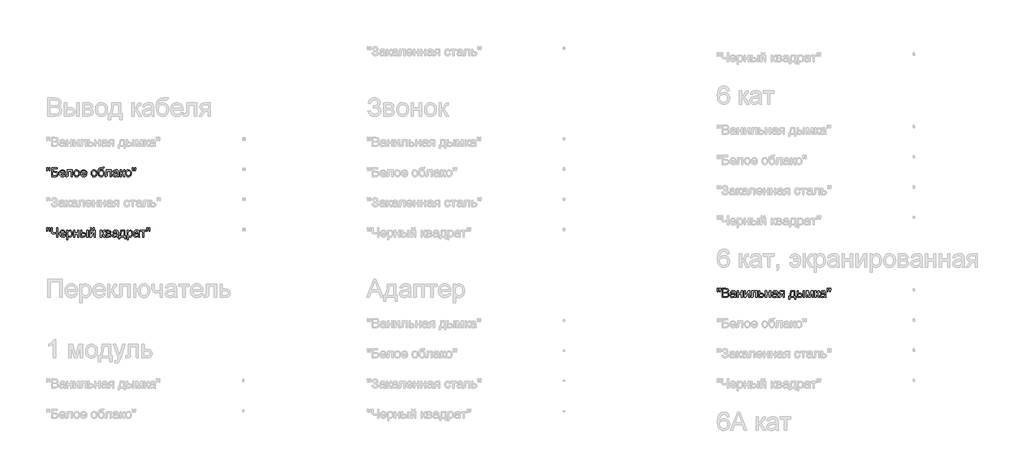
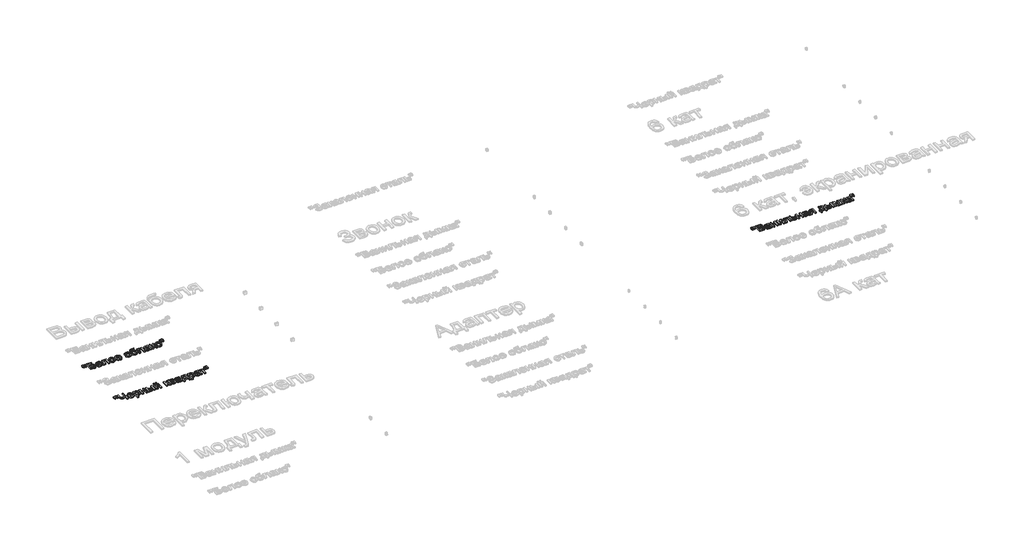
# One storey, part 63 of 168: 3 proxies.
"""IFC4 building model written with IfcOpenShell, lengths in millimetres."""

import ifcopenshell
import ifcopenshell.guid

model = None  # the IFC model being written
_history = None  # IfcOwnerHistory: only IFC2X3 demands one
_inside = {}  # id of a spatial element -> (the spatial element, [elements in it])
_under = {}  # id of a project, library or spatial element -> (it, [spatial elements below it])
_declared = {}  # id of a project -> (the project, [libraries it declares])
_typed = {}  # id of a type object -> (the type object, [elements of that type])
_made_of = {}  # id of a material, layer set ... -> (it, [elements and type objects made of it])


def new_model(schema):
    """Start an empty IFC model of exactly this schema.

    Asked for "IFC4X3", IfcOpenShell would pick the latest addendum, in which some entities
    have other attributes; the version numbers below select the first issue.
    IFC2X3 requires an IfcOwnerHistory on every rooted entity: one is made here for all.
    """
    global model, _history
    if schema == "IFC4X3":
        model = ifcopenshell.file(schema_version=(4, 3, 0, 0))
    else:
        model = ifcopenshell.file(schema=schema)
    _inside.clear()
    _under.clear()
    _declared.clear()
    _typed.clear()
    _made_of.clear()
    _history = None
    if model.schema == "IFC2X3":
        org = make("IfcOrganization", Name="unknown")
        user = make(
            "IfcPersonAndOrganization",
            ThePerson=make("IfcPerson", FamilyName="unknown"),
            TheOrganization=org,
        )
        app = make(
            "IfcApplication",
            ApplicationDeveloper=org,
            Version="unknown",
            ApplicationFullName="unknown",
            ApplicationIdentifier="unknown",
        )
        _history = make(
            "IfcOwnerHistory",
            OwningUser=user,
            OwningApplication=app,
            ChangeAction="ADDED",
            CreationDate=0,
        )
    return model


def make(cls, **values):
    """One entity of the class cls with the attributes given. An attribute that is None is left unset."""
    return model.create_entity(
        cls, **{name: value for name, value in values.items() if value is not None}
    )


def rooted(cls, **values):
    """An entity with a GlobalId (a new one), such as an element, a storey or a relation."""
    return make(cls, GlobalId=ifcopenshell.guid.new(), OwnerHistory=_history, **values)


def si_unit(unit_type, name, prefix=None):
    """IfcSIUnit, for example si_unit("LENGTHUNIT", "METRE", prefix="MILLI")."""
    return make("IfcSIUnit", UnitType=unit_type, Prefix=prefix, Name=name)


def assignment(units):
    """IfcUnitAssignment: the units of a project."""
    return None if units is None else make("IfcUnitAssignment", Units=units)


def point(xyz):
    """IfcCartesianPoint."""
    return None if xyz is None else make("IfcCartesianPoint", Coordinates=xyz)


def direction(xyz):
    """IfcDirection."""
    return None if xyz is None else make("IfcDirection", DirectionRatios=xyz)


def frame(location, z_axis=None, x_axis=None):
    """IfcAxis2Placement3D, a coordinate frame: its origin and axes. An axis left out is left unset."""
    return make(
        "IfcAxis2Placement3D",
        Location=point(location),
        Axis=direction(z_axis),
        RefDirection=direction(x_axis),
    )


def origin():
    """The frame at (0, 0, 0) with its axes left unset."""
    return frame((0.0, 0.0, 0.0))


def origin_with_axes():
    """The frame at (0, 0, 0) with the z axis (0, 0, 1) and the x axis (1, 0, 0) written out."""
    return frame((0.0, 0.0, 0.0), z_axis=(0.0, 0.0, 1.0), x_axis=(1.0, 0.0, 0.0))


def place(relative_to, where):
    """IfcLocalPlacement: puts the frame where relative to a parent placement (None: the world)."""
    return make(
        "IfcLocalPlacement", PlacementRelTo=relative_to, RelativePlacement=where
    )


def context(
    kind, dimensions, precision=None, world=None, true_north=None, identifier=None
):
    """IfcGeometricRepresentationContext, for example the 3D "Model" context."""
    return make(
        "IfcGeometricRepresentationContext",
        ContextIdentifier=identifier,
        ContextType=kind,
        CoordinateSpaceDimension=dimensions,
        Precision=precision,
        WorldCoordinateSystem=world,
        TrueNorth=true_north,
    )


def project(units=None, contexts=None):
    """IfcProject with its units and contexts."""
    return rooted(
        "IfcProject",
        Name="project",
        RepresentationContexts=contexts,
        UnitsInContext=assignment(units),
    )


def spatial(cls, under=None, at=None, **own):
    """A site, building, storey or space (cls), placed at a placement, below another one or the project."""
    s = rooted(cls, ObjectPlacement=at, **own)
    if under is not None:
        _under.setdefault(under.id(), (under, []))[1].append(s)
    return s


def polyline(points):
    """IfcPolyline through the points."""
    return make("IfcPolyline", Points=[point(p) for p in points])


def outline(outer, holes=None, kind="AREA"):
    """IfcArbitraryClosedProfileDef: a profile drawn as a closed curve; with holes, ...WithVoids."""
    if holes is None:
        return make("IfcArbitraryClosedProfileDef", ProfileType=kind, OuterCurve=outer)
    return make(
        "IfcArbitraryProfileDefWithVoids",
        ProfileType=kind,
        OuterCurve=outer,
        InnerCurves=holes,
    )


def extrude(swept, where, along, depth):
    """IfcExtrudedAreaSolid: the profile swept, set in the frame where, extruded along a direction by depth."""
    return make(
        "IfcExtrudedAreaSolid",
        SweptArea=swept,
        Position=where,
        ExtrudedDirection=direction(along),
        Depth=depth,
    )


def shape(context_of_items, identifier, shape_type, items):
    """IfcShapeRepresentation: the items that make up one representation, for example the "Body"."""
    return make(
        "IfcShapeRepresentation",
        ContextOfItems=context_of_items,
        RepresentationIdentifier=identifier,
        RepresentationType=shape_type,
        Items=items,
    )


def made_of(thing, what):
    """Note that an element or type object is made of a material, layer set ...; save() writes the relation."""
    if what is not None:
        _made_of.setdefault(what.id(), (what, []))[1].append(thing)
    return thing


def element(
    cls,
    number,
    at=None,
    inside=None,
    cuts=None,
    type_object=None,
    material=None,
    context=None,
    identifier="Body",
    shape_type=None,
    held_by="IfcProductDefinitionShape",
    body=None,
    shapes=None,
    **own,
):
    """One element of the class cls, such as IfcWall. Its Tag is "e" and its number.

    at: its placement. inside: the storey or other place that contains it. cuts: it is an
    opening in that element (IfcRelVoidsElement). A single representation is given by context,
    identifier, shape_type and body (its items); several are given by shapes. held_by: the class
    of the entity that holds the representations. save() writes the other relations.
    """
    e = rooted(cls, Tag="e%d" % number, ObjectPlacement=at, **own)
    if body is not None:
        shapes = [shape(context, identifier, shape_type, body)]
    if shapes is not None:
        e.Representation = make(held_by, Representations=shapes)
    if inside is not None:
        _inside.setdefault(inside.id(), (inside, []))[1].append(e)
    if cuts is not None:
        rooted(
            "IfcRelVoidsElement", RelatingBuildingElement=cuts, RelatedOpeningElement=e
        )
    if type_object is not None:
        _typed.setdefault(type_object.id(), (type_object, []))[1].append(e)
    return made_of(e, material)


def aggregate(whole, parts):
    """IfcRelAggregates: a whole, such as a stair, and the parts it consists of."""
    return rooted("IfcRelAggregates", RelatingObject=whole, RelatedObjects=parts)


def save(model, path):
    """Write the relations noted so far, then the file.

    IfcRelAggregates (storeys below a building ...), IfcRelContainedInSpatialStructure (elements
    in a storey), IfcRelDefinesByType, IfcRelAssociatesMaterial and IfcRelDeclares: one each for
    every whole, place, type object, material and project.
    """
    for whole, parts in _under.values():
        aggregate(whole, parts)
    for where, things in _inside.values():
        rooted(
            "IfcRelContainedInSpatialStructure",
            RelatedElements=things,
            RelatingStructure=where,
        )
    for kind, things in _typed.values():
        rooted("IfcRelDefinesByType", RelatedObjects=things, RelatingType=kind)
    for what, things in _made_of.values():
        rooted("IfcRelAssociatesMaterial", RelatedObjects=things, RelatingMaterial=what)
    for by, libraries in _declared.values():
        rooted("IfcRelDeclares", RelatingContext=by, RelatedDefinitions=libraries)
    model.write(path)


model = new_model("IFC4")

# Units and contexts
model_context = context("Model", 3, world=origin())
ifc_project = project(units=[si_unit("LENGTHUNIT", "METRE", prefix="MILLI")], contexts=[model_context])

# Site, building, storey
site = spatial("IfcSite", under=ifc_project)
building = spatial("IfcBuilding", under=site)
storey = spatial("IfcBuildingStorey", under=building, Name="Этаж 01", Elevation=0.0)

# Proxies
placement = place(None, origin())
element("IfcBuildingElementProxy", 1, Name="150", ObjectType="150", at=placement, inside=storey, context=model_context, shape_type="SweptSolid", body=[
    extrude(outline(polyline([(49080.1485789, -38470.3300622), (49075.550054, -38441.2305964), (49075.550054, -38416.1778325), (49094.3856121, -38416.1778325), (49094.3856121, -38441.2305964), (49090.2653338, -38470.3300622), (49080.1485789, -38470.3300622)])), origin_with_axes(), (0.0, 0.0, 1.0), 20.0),
    extrude(outline(polyline([(49117.7093306, -38470.3300622), (49113.2211703, -38441.2305964), (49113.2211703, -38416.1778325), (49132.0567284, -38416.1778325), (49132.0567284, -38441.2305964), (49127.6421445, -38470.3300622), (49117.7093306, -38470.3300622)])), origin_with_axes(), (0.0, 0.0, 1.0), 20.0),
    extrude(outline(polyline([(49157.9556209, -38416.1778325), (49252.1334117, -38416.1778325), (49252.1334117, -38435.0133907), (49176.791179, -38435.0133907), (49176.791179, -38479.7478413), (49212.0710624, -38479.7478413), (49243.157091, -38483.573814), (49253.5589544, -38489.101241), (49261.6615553, -38498.0315764), (49266.8762826, -38509.5278888), (49268.614525, -38522.7532465), (49263.6665122, -38544.2191609), (49248.8960501, -38560.5347274), (49235.6247071, -38565.2804052), (49215.4555767, -38566.8622977), (49157.9556209, -38566.8622977), (49157.9556209, -38416.1778325)]), holes=[polyline([(49176.791179, -38548.0267396), (49217.1478339, -38548.0267396), (49231.4124583, -38546.4724382), (49241.6119866, -38541.8095339), (49247.7372218, -38534.0380267), (49249.7789669, -38523.1579167), (49245.1068655, -38508.4058487), (49232.102237, -38500.533174), (49203.7201411, -38498.5833994), (49176.791179, -38498.5833994), (49176.791179, -38548.0267396)])]), origin_with_axes(), (0.0, 0.0, 1.0), 20.0),
    extrude(outline(polyline([(49369.6349209, -38533.900071), (49388.1025971, -38536.2545157), (49381.4485315, -38550.1696522), (49370.8305374, -38560.5715156), (49356.4877381, -38567.0554358), (49338.6592569, -38569.2167425), (49316.5587461, -38565.4873388), (49299.5534008, -38554.2991276), (49288.710079, -38536.3786759), (49285.0956384, -38512.4525506), (49288.7468672, -38487.7216835), (49299.7005536, -38469.2264162), (49316.4759726, -38457.6933157), (49337.5923991, -38453.8489488), (49358.0512366, -38457.6841186), (49374.3989927, -38469.189628), (49385.1181544, -38487.6481071), (49388.6912083, -38512.342186), (49388.5808437, -38517.4189576), (49303.9311966, -38517.4189576), (49307.1915508, -38531.518035), (49314.7653213, -38541.8831103), (49325.6960151, -38548.2566658), (49339.0271389, -38550.3811843), (49357.4948151, -38546.444847), (49369.6349209, -38533.900071)]), holes=[polyline([(49303.9311966, -38498.5833994), (49369.8556501, -38498.5833994), (49367.3080673, -38488.6321915), (49362.3140692, -38481.5136749), (49351.3327917, -38474.8917989), (49337.5188227, -38472.684507), (49324.8222954, -38474.445742), (49314.3238629, -38479.7294472), (49307.0260039, -38487.9654053), (49303.9311966, -38498.5833994)])]), origin_with_axes(), (0.0, 0.0, 1.0), 20.0),
    extrude(outline(polyline([(49416.9445455, -38456.2033936), (49501.7045572, -38456.2033936), (49501.7045572, -38566.7519331), (49482.868999, -38566.7519331), (49482.868999, -38475.0389517), (49435.7801036, -38475.0389517), (49435.7801036, -38527.830018), (49434.5109108, -38552.1838061), (49427.539547, -38562.4661079), (49411.0584336, -38566.8622977), (49395.7545426, -38565.9058045), (49395.7545426, -38548.0267396), (49404.1790403, -38548.0267396), (49412.6955084, -38546.8679113), (49416.0984169, -38543.1890913), (49416.9445455, -38526.7631603), (49416.9445455, -38456.2033936)])), origin_with_axes(), (0.0, 0.0, 1.0), 20.0),
    extrude(outline(polyline([(49525.2490049, -38511.5328457), (49529.323298, -38484.852204), (49541.5461773, -38466.0994193), (49556.6477332, -38456.9115664), (49574.7291332, -38453.8489488), (49594.516586, -38457.5783525), (49610.3217163, -38468.7665637), (49620.6821929, -38486.5306656), (49624.1356852, -38509.9877413), (49622.6089749, -38529.0164375), (49618.0288441, -38543.501791), (49610.5286499, -38554.3497114), (49600.2417496, -38562.4661079), (49588.0234688, -38567.5290839), (49574.7291332, -38569.2167425), (49554.7025571, -38565.5011344), (49538.915821, -38554.3543099), (49528.6657089, -38536.2177275), (49525.2490049, -38511.5328457)]), holes=[polyline([(49544.084563, -38511.4960575), (49546.2642638, -38528.5427894), (49552.8033663, -38540.6874938), (49562.6442097, -38547.9577617), (49574.7291332, -38550.3811843), (49586.7588745, -38547.9439661), (49596.5813237, -38540.6323115), (49603.1204262, -38528.3266587), (49605.300127, -38510.9074463), (49603.1066306, -38494.357355), (49596.5261414, -38482.3781975), (49586.6898966, -38475.1079296), (49574.7291332, -38472.684507), (49562.6442097, -38475.0987326), (49552.8033663, -38482.3414093), (49546.2642638, -38494.4585226), (49544.084563, -38511.4960575)])]), origin_with_axes(), (0.0, 0.0, 1.0), 20.0),
    extrude(outline(polyline([(49722.8016363, -38533.900071), (49741.2693124, -38536.2545157), (49734.6152469, -38550.1696522), (49723.9972528, -38560.5715156), (49709.6544535, -38567.0554358), (49691.8259723, -38569.2167425), (49669.7254614, -38565.4873388), (49652.7201162, -38554.2991276), (49641.8767944, -38536.3786759), (49638.2623538, -38512.4525506), (49641.9135826, -38487.7216835), (49652.867269, -38469.2264162), (49669.642688, -38457.6933157), (49690.7591145, -38453.8489488), (49711.217952, -38457.6841186), (49727.5657081, -38469.189628), (49738.2848698, -38487.6481071), (49741.8579236, -38512.342186), (49741.747559, -38517.4189576), (49657.0979119, -38517.4189576), (49660.3582661, -38531.518035), (49667.9320367, -38541.8831103), (49678.8627305, -38548.2566658), (49692.1938543, -38550.3811843), (49710.6615304, -38546.444847), (49722.8016363, -38533.900071)]), holes=[polyline([(49657.0979119, -38498.5833994), (49723.0223655, -38498.5833994), (49720.4747827, -38488.6321915), (49715.4807846, -38481.5136749), (49704.499507, -38474.8917989), (49690.6855381, -38472.684507), (49677.9890107, -38474.445742), (49667.4905783, -38479.7294472), (49660.1927192, -38487.9654053), (49657.0979119, -38498.5833994)])]), origin_with_axes(), (0.0, 0.0, 1.0), 20.0),
    extrude(outline(polyline([(49814.8457115, -38511.5328457), (49818.9200046, -38484.852204), (49831.1428839, -38466.0994193), (49846.2444398, -38456.9115664), (49864.3258398, -38453.8489488), (49884.1132926, -38457.5783525), (49899.9184229, -38468.7665637), (49910.2788995, -38486.5306656), (49913.7323918, -38509.9877413), (49912.2056815, -38529.0164375), (49907.6255507, -38543.501791), (49900.1253565, -38554.3497114), (49889.8384562, -38562.4661079), (49877.6201754, -38567.5290839), (49864.3258398, -38569.2167425), (49844.2992637, -38565.5011344), (49828.5125276, -38554.3543099), (49818.2624155, -38536.2177275), (49814.8457115, -38511.5328457)]), holes=[polyline([(49833.6812696, -38511.4960575), (49835.8609704, -38528.5427894), (49842.4000729, -38540.6874938), (49852.2409163, -38547.9577617), (49864.3258398, -38550.3811843), (49876.3555811, -38547.9439661), (49886.1780303, -38540.6323115), (49892.7171328, -38528.3266587), (49894.8968336, -38510.9074463), (49892.7033372, -38494.357355), (49886.122848, -38482.3781975), (49876.2866032, -38475.1079296), (49864.3258398, -38472.684507), (49852.2409163, -38475.0987326), (49842.4000729, -38482.3414093), (49835.8609704, -38494.4585226), (49833.6812696, -38511.4960575)])]), origin_with_axes(), (0.0, 0.0, 1.0), 20.0),
    extrude(outline(polyline([(50012.6190721, -38413.8233877), (50029.1001855, -38413.8233877), (50024.2441431, -38428.5202734), (50014.6424231, -38433.8361683), (49991.576222, -38435.0133907), (49960.5085875, -38439.3543982), (49953.3808738, -38445.0013868), (49948.5892108, -38453.2603376), (49944.560903, -38477.8716431), (49960.8764695, -38459.8454253), (49970.7954878, -38455.3480679), (49981.9009255, -38453.8489488), (50001.4998388, -38457.661126), (50017.401538, -38469.0976575), (50027.9413572, -38487.0365033), (50031.4546302, -38510.3556233), (50029.7117893, -38528.3358558), (50024.4832664, -38542.766027), (50007.9469707, -38562.3189551), (49996.6529935, -38567.4922957), (49981.9009255, -38569.2167425), (49964.9001788, -38566.995655), (49952.1576662, -38560.3323923), (49942.7812738, -38550.2064404), (49935.8788879, -38537.597285), (49931.6298508, -38518.6099755), (49930.2135052, -38489.3495614), (49933.786559, -38453.2097538), (49944.5057207, -38431.1690238), (49962.6377045, -38419.9256303), (49988.449225, -38416.1778325), (50009.4184987, -38415.7547682), (50012.6190721, -38413.8233877)]), holes=[polyline([(50012.6190721, -38509.7670121), (50010.577327, -38494.9459662), (50004.4520918, -38483.0771733), (49994.6112484, -38475.2826736), (49981.4226789, -38472.684507), (49967.6730893, -38475.4298264), (49957.473561, -38483.6657845), (49951.1551877, -38496.4910706), (49949.0490633, -38513.0043736), (49951.3759169, -38529.011839), (49958.3564778, -38540.7610702), (49968.7491442, -38547.9761558), (49981.3123143, -38550.3811843), (49993.9398638, -38547.5990768), (50003.937057, -38539.252754), (50010.4485683, -38526.3171033), (50012.6190721, -38509.7670121)])]), origin_with_axes(), (0.0, 0.0, 1.0), 20.0),
    extrude(outline(polyline([(50064.416857, -38456.2033936), (50149.1768687, -38456.2033936), (50149.1768687, -38566.7519331), (50130.3413105, -38566.7519331), (50130.3413105, -38475.0389517), (50083.2524152, -38475.0389517), (50083.2524152, -38527.830018), (50081.9832223, -38552.1838061), (50075.0118585, -38562.4661079), (50058.5307451, -38566.8622977), (50043.2268541, -38565.9058045), (50043.2268541, -38548.0267396), (50051.6513518, -38548.0267396), (50060.16782, -38546.8679113), (50063.5707284, -38543.1890913), (50064.416857, -38526.7631603), (50064.416857, -38456.2033936)])), origin_with_axes(), (0.0, 0.0, 1.0), 20.0),
    extrude(outline(polyline([(50248.063549, -38552.7356291), (50229.7982079, -38565.5011344), (50209.6198805, -38569.2167425), (50193.8791296, -38566.9818594), (50182.2678542, -38560.27721), (50175.1079508, -38550.0960758), (50172.7213164, -38537.4317381), (50176.3265599, -38522.5325173), (50185.7995213, -38511.7167867), (50198.9880908, -38505.5363691), (50215.2852632, -38502.7036778), (50247.9531844, -38496.2289547), (50248.063549, -38492.0350999), (50246.766765, -38483.6289963), (50242.8764129, -38478.1291605), (50234.1760037, -38474.0456704), (50222.0542919, -38472.684507), (50202.9980046, -38476.3081446), (50193.9113193, -38489.1656204), (50175.0757612, -38486.8111756), (50183.2243473, -38468.4170758), (50199.6318843, -38457.6381334), (50224.4823131, -38453.8489488), (50247.3093909, -38457.196675), (50260.2036548, -38465.6027786), (50265.9794022, -38478.3866779), (50266.8991071, -38494.8677913), (50266.8991071, -38518.3018744), (50267.8556003, -38551.0249778), (50271.6079967, -38566.8622977), (50252.7724385, -38566.8622977), (50248.063549, -38552.7356291)]), holes=[polyline([(50248.063549, -38515.0645128), (50217.6764962, -38520.8402601), (50201.4712943, -38523.8936807), (50194.1320485, -38528.8600876), (50191.5568745, -38536.1073629), (50197.167075, -38546.2976942), (50213.6297942, -38550.3811843), (50232.6860816, -38545.8746299), (50244.9733402, -38534.9669288), (50247.9531844, -38520.3988017), (50248.063549, -38515.0645128)])]), origin_with_axes(), (0.0, 0.0, 1.0), 20.0),
    extrude(outline(polyline([(50292.7979996, -38456.2033936), (50311.6335578, -38456.2033936), (50311.6335578, -38503.292289), (50324.2519102, -38499.9077746), (50334.5893943, -38480.1892997), (50343.1794388, -38463.1747574), (50350.7578079, -38457.6381334), (50364.5349887, -38456.2033936), (50368.1402322, -38456.2033936), (50368.1402322, -38475.1493163), (50363.0634607, -38475.0389517), (50353.8664108, -38477.0255145), (50347.3916877, -38489.4231377), (50339.7949245, -38502.8324365), (50329.1447407, -38509.3991301), (50341.0273292, -38516.7291788), (50352.6891884, -38532.1710256), (50372.8491218, -38566.8622977), (50351.4383896, -38566.8622977), (50331.6831265, -38532.9067896), (50321.7503126, -38518.5409977), (50311.6335578, -38515.0645128), (50311.6335578, -38566.8622977), (50292.7979996, -38566.8622977), (50292.7979996, -38456.2033936)])), origin_with_axes(), (0.0, 0.0, 1.0), 20.0),
    extrude(outline(polyline([(50379.9124561, -38511.5328457), (50383.9867492, -38484.852204), (50396.2096285, -38466.0994193), (50411.3111844, -38456.9115664), (50429.3925844, -38453.8489488), (50449.1800372, -38457.5783525), (50464.9851674, -38468.7665637), (50475.3456441, -38486.5306656), (50478.7991364, -38509.9877413), (50477.2724261, -38529.0164375), (50472.6922952, -38543.501791), (50465.1921011, -38554.3497114), (50454.9052008, -38562.4661079), (50442.68692, -38567.5290839), (50429.3925844, -38569.2167425), (50409.3660083, -38565.5011344), (50393.5792722, -38554.3543099), (50383.3291601, -38536.2177275), (50379.9124561, -38511.5328457)]), holes=[polyline([(50398.7480142, -38511.4960575), (50400.927715, -38528.5427894), (50407.4668175, -38540.6874938), (50417.3076609, -38547.9577617), (50429.3925844, -38550.3811843), (50441.4223257, -38547.9439661), (50451.2447749, -38540.6323115), (50457.7838774, -38528.3266587), (50459.9635782, -38510.9074463), (50457.7700818, -38494.357355), (50451.1895926, -38482.3781975), (50441.3533478, -38475.1079296), (50429.3925844, -38472.684507), (50417.3076609, -38475.0987326), (50407.4668175, -38482.3414093), (50400.927715, -38494.4585226), (50398.7480142, -38511.4960575)])]), origin_with_axes(), (0.0, 0.0, 1.0), 20.0),
    extrude(outline(polyline([(50499.8787747, -38470.3300622), (50495.2802498, -38441.2305964), (50495.2802498, -38416.1778325), (50514.1158079, -38416.1778325), (50514.1158079, -38441.2305964), (50509.9955296, -38470.3300622), (50499.8787747, -38470.3300622)])), origin_with_axes(), (0.0, 0.0, 1.0), 20.0),
    extrude(outline(polyline([(50537.4395264, -38470.3300622), (50532.9513661, -38441.2305964), (50532.9513661, -38416.1778325), (50551.7869242, -38416.1778325), (50551.7869242, -38441.2305964), (50547.3723403, -38470.3300622), (50537.4395264, -38470.3300622)])), origin_with_axes(), (0.0, 0.0, 1.0), 20.0),
])
element("IfcBuildingElementProxy", 2, Name="150", ObjectType="150", at=placement, inside=storey, context=model_context, shape_type="SweptSolid", body=[
    extrude(outline(polyline([(49080.1485789, -39470.3300622), (49075.550054, -39441.2305964), (49075.550054, -39416.1778325), (49094.3856121, -39416.1778325), (49094.3856121, -39441.2305964), (49090.2653338, -39470.3300622), (49080.1485789, -39470.3300622)])), origin_with_axes(), (0.0, 0.0, 1.0), 20.0),
    extrude(outline(polyline([(49117.7093306, -39470.3300622), (49113.2211703, -39441.2305964), (49113.2211703, -39416.1778325), (49132.0567284, -39416.1778325), (49132.0567284, -39441.2305964), (49127.6421445, -39470.3300622), (49117.7093306, -39470.3300622)])), origin_with_axes(), (0.0, 0.0, 1.0), 20.0),
    extrude(outline(polyline([(49263.9056355, -39566.8622977), (49245.0700773, -39566.8622977), (49245.0700773, -39506.5296505), (49220.0908899, -39514.6966308), (49198.4226404, -39517.4189576), (49183.7395502, -39515.556555), (49170.886673, -39509.9693472), (49160.926268, -39501.5172583), (49154.9205944, -39491.0602126), (49150.8922866, -39461.0594359), (49150.8922866, -39416.1778325), (49169.7278447, -39416.1778325), (49169.7278447, -39458.5210502), (49171.990319, -39478.8879171), (49178.7777418, -39490.8394834), (49188.7381468, -39496.6474204), (49200.5195677, -39498.5833994), (49222.2521966, -39496.2473488), (49245.0700773, -39489.2391968), (49245.0700773, -39416.1778325), (49263.9056355, -39416.1778325), (49263.9056355, -39566.8622977)])), origin_with_axes(), (0.0, 0.0, 1.0), 20.0),
    extrude(outline(polyline([(49371.9893657, -39533.900071), (49390.4570418, -39536.2545157), (49383.8029763, -39550.1696522), (49373.1849822, -39560.5715156), (49358.8421829, -39567.0554358), (49341.0137017, -39569.2167425), (49318.9131908, -39565.4873388), (49301.9078456, -39554.2991276), (49291.0645238, -39536.3786759), (49287.4500832, -39512.4525506), (49291.101312, -39487.7216835), (49302.0549984, -39469.2264162), (49318.8304174, -39457.6933157), (49339.9468439, -39453.8489488), (49360.4056814, -39457.6841186), (49376.7534375, -39469.189628), (49387.4725992, -39487.6481071), (49391.045653, -39512.342186), (49390.9352884, -39517.4189576), (49306.2856413, -39517.4189576), (49309.5459955, -39531.518035), (49317.1197661, -39541.8831103), (49328.0504599, -39548.2566658), (49341.3815837, -39550.3811843), (49359.8492598, -39546.444847), (49371.9893657, -39533.900071)]), holes=[polyline([(49306.2856413, -39498.5833994), (49372.2100949, -39498.5833994), (49369.6625121, -39488.6321915), (49364.668514, -39481.5136749), (49353.6872364, -39474.8917989), (49339.8732675, -39472.684507), (49327.1767401, -39474.445742), (49316.6783077, -39479.7294472), (49309.3804486, -39487.9654053), (49306.2856413, -39498.5833994)])]), origin_with_axes(), (0.0, 0.0, 1.0), 20.0),
    extrude(outline(polyline([(49409.8812112, -39609.2423036), (49409.8812112, -39456.2033936), (49428.7167693, -39456.2033936), (49428.7167693, -39474.6710697), (49441.739792, -39459.054479), (49459.3245513, -39453.8489488), (49472.0624654, -39455.6699647), (49483.2000928, -39461.1330123), (49492.268384, -39469.9069979), (49498.7982894, -39481.6608277), (49504.0590019, -39510.6867171), (49502.5736784, -39526.7953499), (49498.1177077, -39541.2025286), (49490.8336442, -39553.1770875), (49480.8640422, -39561.9878613), (49469.2527667, -39567.4095222), (49457.043683, -39569.2167425), (49440.6545401, -39564.3790943), (49428.7167693, -39552.1470179), (49428.7167693, -39609.2423036), (49409.8812112, -39609.2423036)]), holes=[polyline([(49428.7167693, -39512.4157624), (49430.7539159, -39529.301546), (49436.8653555, -39541.1105581), (49445.8830629, -39548.0635278), (49456.6390128, -39550.3811843), (49467.5697066, -39547.9807543), (49476.8173402, -39540.7794643), (49483.1219179, -39528.5381909), (49485.2234438, -39511.0178109), (49483.1725017, -39494.2239978), (49477.0196753, -39482.2494388), (49468.0157635, -39475.0757399), (49457.411565, -39472.684507), (49446.7659797, -39475.2274913), (49437.4171785, -39482.8564441), (49430.8918716, -39495.3322423), (49428.7167693, -39512.4157624)])]), origin_with_axes(), (0.0, 0.0, 1.0), 20.0),
    extrude(outline(polyline([(49525.2490049, -39456.2033936), (49544.084563, -39456.2033936), (49544.084563, -39498.5833994), (49593.5279032, -39498.5833994), (49593.5279032, -39456.2033936), (49612.3634613, -39456.2033936), (49612.3634613, -39566.8622977), (49593.5279032, -39566.8622977), (49593.5279032, -39517.4189576), (49544.084563, -39517.4189576), (49544.084563, -39566.8622977), (49525.2490049, -39566.8622977), (49525.2490049, -39456.2033936)])), origin_with_axes(), (0.0, 0.0, 1.0), 20.0),
    extrude(outline(polyline([(49744.2123684, -39456.2033936), (49763.0479266, -39456.2033936), (49763.0479266, -39566.8622977), (49744.2123684, -39566.8622977), (49744.2123684, -39456.2033936)])), origin_with_axes(), (0.0, 0.0, 1.0), 20.0),
    extrude(outline(polyline([(49640.6167986, -39456.2033936), (49659.4523567, -39456.2033936), (49659.4523567, -39496.2289547), (49682.739287, -39496.2289547), (49702.8670307, -39498.587998), (49717.780047, -39505.6651278), (49727.0092866, -39516.8901272), (49730.0856998, -39531.692779), (49727.5059273, -39545.1710556), (49719.7666098, -39556.5432078), (49706.3619096, -39564.2825252), (49686.785989, -39566.8622977), (49640.6167986, -39566.8622977), (49640.6167986, -39456.2033936)]), holes=[polyline([(49659.4523567, -39548.0267396), (49678.8029497, -39548.0267396), (49703.7821371, -39544.0720081), (49709.3831405, -39539.0090322), (49711.2501416, -39531.7295672), (49705.7135176, -39520.1412843), (49696.8337659, -39516.3337057), (49681.267759, -39515.0645128), (49659.4523567, -39515.0645128), (49659.4523567, -39548.0267396)])]), origin_with_axes(), (0.0, 0.0, 1.0), 20.0),
    extrude(outline(polyline([(49791.3012638, -39456.2033936), (49810.1368219, -39456.2033936), (49810.1368219, -39540.5955233), (49856.4163769, -39456.2033936), (49880.770165, -39456.2033936), (49880.770165, -39566.8622977), (49861.9346069, -39566.8622977), (49861.9346069, -39482.9852028), (49815.9493575, -39566.8622977), (49791.3012638, -39566.8622977), (49791.3012638, -39456.2033936)])), origin_with_axes(), (0.0, 0.0, 1.0), 20.0),
    extrude(outline(polyline([(49852.5168278, -39416.1778325), (49866.6434964, -39416.1778325), (49863.6038714, -39428.2397634), (49857.5016288, -39437.1287121), (49848.6126801, -39442.6055553), (49837.2129368, -39444.4311697), (49824.8429047, -39442.6193509), (49815.2503817, -39437.1838944), (49808.6928851, -39428.3087413), (49805.4279324, -39416.1778325), (49819.554601, -39416.1778325), (49824.8521017, -39426.7912281), (49835.5206796, -39430.3045011), (49847.219327, -39426.9015927), (49852.5168278, -39416.1778325)])), origin_with_axes(), (0.0, 0.0, 1.0), 20.0),
    extrude(outline(polyline([(49967.8846215, -39456.2033936), (49986.7201796, -39456.2033936), (49986.7201796, -39503.292289), (49999.3385321, -39499.9077746), (50009.6760161, -39480.1892997), (50018.2660607, -39463.1747574), (50025.8444298, -39457.6381334), (50039.6216105, -39456.2033936), (50043.2268541, -39456.2033936), (50043.2268541, -39475.1493163), (50038.1500825, -39475.0389517), (50028.9530327, -39477.0255145), (50022.4783096, -39489.4231377), (50014.8815464, -39502.8324365), (50004.2313626, -39509.3991301), (50016.113951, -39516.7291788), (50027.7758103, -39532.1710256), (50047.9357436, -39566.8622977), (50026.5250115, -39566.8622977), (50006.7697484, -39532.9067896), (49996.8369345, -39518.5409977), (49986.7201796, -39515.0645128), (49986.7201796, -39566.8622977), (49967.8846215, -39566.8622977), (49967.8846215, -39456.2033936)])), origin_with_axes(), (0.0, 0.0, 1.0), 20.0),
    extrude(outline(polyline([(50059.7079675, -39456.2033936), (50101.2050565, -39456.2033936), (50123.9585579, -39458.7233853), (50136.7608514, -39467.9572233), (50142.1135344, -39484.0520606), (50138.8761728, -39497.1302655), (50129.1273, -39506.4560741), (50141.7824406, -39516.6647995), (50146.8224239, -39534.4151058), (50143.6310476, -39548.7717006), (50136.0434815, -39558.8792584), (50124.0321343, -39564.8665379), (50107.569415, -39566.8622977), (50059.7079675, -39566.8622977), (50059.7079675, -39456.2033936)]), holes=[polyline([(50078.5435256, -39498.5833994), (50097.1583546, -39498.5833994), (50112.5174279, -39497.6269062), (50119.9854324, -39493.8009335), (50123.2779762, -39486.884752), (50121.8340394, -39481.2653545), (50117.5022289, -39477.6509139), (50097.7469658, -39475.0389517), (50078.5435256, -39475.0389517), (50078.5435256, -39498.5833994)]), polyline([(50078.5435256, -39548.0267396), (50101.6465149, -39548.0267396), (50122.137542, -39544.6238311), (50126.377382, -39539.9839195), (50127.9868658, -39532.8700014), (50124.7678983, -39523.8017102), (50116.3801888, -39518.5226036), (50099.8071049, -39517.4189576), (50078.5435256, -39517.4189576), (50078.5435256, -39548.0267396)])]), origin_with_axes(), (0.0, 0.0, 1.0), 20.0),
    extrude(outline(polyline([(50241.0002147, -39552.7356291), (50222.7348736, -39565.5011344), (50202.5565462, -39569.2167425), (50186.8157953, -39566.9818594), (50175.2045198, -39560.27721), (50168.0446165, -39550.0960758), (50165.6579821, -39537.4317381), (50169.2632256, -39522.5325173), (50178.736187, -39511.7167867), (50191.9247565, -39505.5363691), (50208.2219289, -39502.7036778), (50240.8898501, -39496.2289547), (50241.0002147, -39492.0350999), (50239.7034307, -39483.6289963), (50235.8130786, -39478.1291605), (50227.1126694, -39474.0456704), (50214.9909576, -39472.684507), (50195.9346703, -39476.3081446), (50186.847985, -39489.1656204), (50168.0124268, -39486.8111756), (50176.161013, -39468.4170758), (50192.56855, -39457.6381334), (50217.4189788, -39453.8489488), (50240.2460566, -39457.196675), (50253.1403205, -39465.6027786), (50258.9160679, -39478.3866779), (50259.8357728, -39494.8677913), (50259.8357728, -39518.3018744), (50260.792266, -39551.0249778), (50264.5446624, -39566.8622977), (50245.7091042, -39566.8622977), (50241.0002147, -39552.7356291)]), holes=[polyline([(50241.0002147, -39515.0645128), (50210.6131619, -39520.8402601), (50194.40796, -39523.8936807), (50187.0687142, -39528.8600876), (50184.4935402, -39536.1073629), (50190.1037407, -39546.2976942), (50206.5664599, -39550.3811843), (50225.6227473, -39545.8746299), (50237.9100059, -39534.9669288), (50240.8898501, -39520.3988017), (50241.0002147, -39515.0645128)])]), origin_with_axes(), (0.0, 0.0, 1.0), 20.0),
    extrude(outline(polyline([(50302.2157787, -39456.2033936), (50372.8491218, -39456.2033936), (50372.8491218, -39548.0267396), (50386.9757904, -39548.0267396), (50386.9757904, -39597.4700797), (50368.1402322, -39597.4700797), (50368.1402322, -39566.8622977), (50290.4435548, -39566.8622977), (50290.4435548, -39597.4700797), (50271.6079967, -39597.4700797), (50271.6079967, -39548.0267396), (50283.3802205, -39548.0267396), (50291.9380754, -39532.5619002), (50297.9299534, -39512.1030628), (50302.2157787, -39456.2033936)]), holes=[polyline([(50318.6968921, -39475.0389517), (50314.2823081, -39517.9523865), (50304.5702235, -39548.0267396), (50354.0135636, -39548.0267396), (50354.0135636, -39475.0389517), (50318.6968921, -39475.0389517)])]), origin_with_axes(), (0.0, 0.0, 1.0), 20.0),
    extrude(outline(polyline([(50408.1657933, -39609.2423036), (50408.1657933, -39456.2033936), (50427.0013514, -39456.2033936), (50427.0013514, -39474.6710697), (50440.0243741, -39459.054479), (50457.6091334, -39453.8489488), (50470.3470475, -39455.6699647), (50481.4846749, -39461.1330123), (50490.5529661, -39469.9069979), (50497.0828715, -39481.6608277), (50502.3435841, -39510.6867171), (50500.8582605, -39526.7953499), (50496.4022898, -39541.2025286), (50489.1182263, -39553.1770875), (50479.1486243, -39561.9878613), (50467.5373488, -39567.4095222), (50455.3282651, -39569.2167425), (50438.9391222, -39564.3790943), (50427.0013514, -39552.1470179), (50427.0013514, -39609.2423036), (50408.1657933, -39609.2423036)]), holes=[polyline([(50427.0013514, -39512.4157624), (50429.038498, -39529.301546), (50435.1499376, -39541.1105581), (50444.167645, -39548.0635278), (50454.9235949, -39550.3811843), (50465.8542887, -39547.9807543), (50475.1019223, -39540.7794643), (50481.4065, -39528.5381909), (50483.5080259, -39511.0178109), (50481.4570838, -39494.2239978), (50475.3042574, -39482.2494388), (50466.3003456, -39475.0757399), (50455.6961471, -39472.684507), (50445.0505618, -39475.2274913), (50435.7017606, -39482.8564441), (50429.1764537, -39495.3322423), (50427.0013514, -39512.4157624)])]), origin_with_axes(), (0.0, 0.0, 1.0), 20.0),
    extrude(outline(polyline([(50594.1669301, -39552.7356291), (50575.901589, -39565.5011344), (50555.7232616, -39569.2167425), (50539.9825107, -39566.9818594), (50528.3712352, -39560.27721), (50521.2113319, -39550.0960758), (50518.8246974, -39537.4317381), (50522.429941, -39522.5325173), (50531.9029024, -39511.7167867), (50545.0914719, -39505.5363691), (50561.3886443, -39502.7036778), (50594.0565655, -39496.2289547), (50594.1669301, -39492.0350999), (50592.870146, -39483.6289963), (50588.9797939, -39478.1291605), (50580.2793847, -39474.0456704), (50568.157673, -39472.684507), (50549.1013856, -39476.3081446), (50540.0147004, -39489.1656204), (50521.1791422, -39486.8111756), (50529.3277284, -39468.4170758), (50545.7352654, -39457.6381334), (50570.5856942, -39453.8489488), (50593.412772, -39457.196675), (50606.3070359, -39465.6027786), (50612.0827832, -39478.3866779), (50613.0024882, -39494.8677913), (50613.0024882, -39518.3018744), (50613.9589814, -39551.0249778), (50617.7113777, -39566.8622977), (50598.8758196, -39566.8622977), (50594.1669301, -39552.7356291)]), holes=[polyline([(50594.1669301, -39515.0645128), (50563.7798773, -39520.8402601), (50547.5746754, -39523.8936807), (50540.2354296, -39528.8600876), (50537.6602556, -39536.1073629), (50543.270456, -39546.2976942), (50559.7331753, -39550.3811843), (50578.7894627, -39545.8746299), (50591.0767213, -39534.9669288), (50594.0565655, -39520.3988017), (50594.1669301, -39515.0645128)])]), origin_with_axes(), (0.0, 0.0, 1.0), 20.0),
    extrude(outline(polyline([(50629.4836016, -39456.2033936), (50718.9525028, -39456.2033936), (50718.9525028, -39475.0389517), (50683.6358313, -39475.0389517), (50683.6358313, -39566.8622977), (50664.8002731, -39566.8622977), (50664.8002731, -39475.0389517), (50629.4836016, -39475.0389517), (50629.4836016, -39456.2033936)])), origin_with_axes(), (0.0, 0.0, 1.0), 20.0),
    extrude(outline(polyline([(50735.3232516, -39470.3300622), (50730.7247267, -39441.2305964), (50730.7247267, -39416.1778325), (50749.5602848, -39416.1778325), (50749.5602848, -39441.2305964), (50745.4400065, -39470.3300622), (50735.3232516, -39470.3300622)])), origin_with_axes(), (0.0, 0.0, 1.0), 20.0),
    extrude(outline(polyline([(50772.8840033, -39470.3300622), (50768.395843, -39441.2305964), (50768.395843, -39416.1778325), (50787.2314011, -39416.1778325), (50787.2314011, -39441.2305964), (50782.8168172, -39470.3300622), (50772.8840033, -39470.3300622)])), origin_with_axes(), (0.0, 0.0, 1.0), 20.0),
])
element("IfcBuildingElementProxy", 3, Name="150", ObjectType="150", at=placement, inside=storey, context=model_context, shape_type="SweptSolid", body=[
    extrude(outline(polyline([(60180.1485789, -40470.3300622), (60175.550054, -40441.2305964), (60175.550054, -40416.1778325), (60194.3856121, -40416.1778325), (60194.3856121, -40441.2305964), (60190.2653338, -40470.3300622), (60180.1485789, -40470.3300622)])), origin_with_axes(), (0.0, 0.0, 1.0), 20.0),
    extrude(outline(polyline([(60217.7093306, -40470.3300622), (60213.2211703, -40441.2305964), (60213.2211703, -40416.1778325), (60232.0567284, -40416.1778325), (60232.0567284, -40441.2305964), (60227.6421445, -40470.3300622), (60217.7093306, -40470.3300622)])), origin_with_axes(), (0.0, 0.0, 1.0), 20.0),
    extrude(outline(polyline([(60257.9556209, -40566.8622977), (60257.9556209, -40416.1778325), (60315.4555767, -40416.1778325), (60343.6169435, -40420.6108106), (60353.0807078, -40426.2348066), (60360.2452096, -40434.2408385), (60366.2600803, -40453.517855), (60361.2017028, -40471.1210085), (60345.9162059, -40484.4567308), (60356.5893823, -40490.030143), (60364.4758526, -40498.509823), (60369.3456905, -40509.3347507), (60370.9689698, -40521.9439061), (60366.5359918, -40542.19581), (60355.5547142, -40556.6167842), (60339.1655713, -40564.2687297), (60315.0141183, -40566.8622977), (60257.9556209, -40566.8622977)]), holes=[polyline([(60276.791179, -40477.3933965), (60311.1881456, -40477.3933965), (60331.2745025, -40475.7747157), (60343.3594261, -40468.8033519), (60347.4245221, -40456.5344874), (60343.6353376, -40444.2472287), (60332.7828187, -40436.9815593), (60308.5761834, -40435.0133907), (60276.791179, -40435.0133907), (60276.791179, -40477.3933965)]), polyline([(60276.791179, -40548.0267396), (60315.4187885, -40548.0267396), (60329.3983043, -40547.2909756), (60341.2257105, -40543.1890913), (60349.061597, -40534.819776), (60352.1334117, -40522.1278471), (60348.5281681, -40507.4861437), (60336.8479148, -40498.7489463), (60313.5793786, -40496.2289547), (60276.791179, -40496.2289547), (60276.791179, -40548.0267396)])]), origin_with_axes(), (0.0, 0.0, 1.0), 20.0),
    extrude(outline(polyline([(60465.1467606, -40552.7356291), (60446.8814195, -40565.5011344), (60426.7030921, -40569.2167425), (60410.9623412, -40566.9818594), (60399.3510657, -40560.27721), (60392.1911624, -40550.0960758), (60389.804528, -40537.4317381), (60393.4097715, -40522.5325173), (60402.8827329, -40511.7167867), (60416.0713024, -40505.5363691), (60432.3684748, -40502.7036778), (60465.036396, -40496.2289547), (60465.1467606, -40492.0350999), (60463.8499765, -40483.6289963), (60459.9596244, -40478.1291605), (60451.2592153, -40474.0456704), (60439.1375035, -40472.684507), (60420.0812162, -40476.3081446), (60410.9945309, -40489.1656204), (60392.1589727, -40486.8111756), (60400.3075589, -40468.4170758), (60416.7150959, -40457.6381334), (60441.5655247, -40453.8489488), (60464.3926025, -40457.196675), (60477.2868664, -40465.6027786), (60483.0626137, -40478.3866779), (60483.9823187, -40494.8677913), (60483.9823187, -40518.3018744), (60484.9388119, -40551.0249778), (60488.6912083, -40566.8622977), (60469.8556501, -40566.8622977), (60465.1467606, -40552.7356291)]), holes=[polyline([(60465.1467606, -40515.0645128), (60434.7597078, -40520.8402601), (60418.5545059, -40523.8936807), (60411.2152601, -40528.8600876), (60408.6400861, -40536.1073629), (60414.2502865, -40546.2976942), (60430.7130058, -40550.3811843), (60449.7692932, -40545.8746299), (60462.0565518, -40534.9669288), (60465.036396, -40520.3988017), (60465.1467606, -40515.0645128)])]), origin_with_axes(), (0.0, 0.0, 1.0), 20.0),
    extrude(outline(polyline([(60509.8812112, -40456.2033936), (60528.7167693, -40456.2033936), (60528.7167693, -40498.5833994), (60578.1601095, -40498.5833994), (60578.1601095, -40456.2033936), (60596.9956676, -40456.2033936), (60596.9956676, -40566.8622977), (60578.1601095, -40566.8622977), (60578.1601095, -40517.4189576), (60528.7167693, -40517.4189576), (60528.7167693, -40566.8622977), (60509.8812112, -40566.8622977), (60509.8812112, -40456.2033936)])), origin_with_axes(), (0.0, 0.0, 1.0), 20.0),
    extrude(outline(polyline([(60625.2490049, -40456.2033936), (60644.084563, -40456.2033936), (60644.084563, -40540.5955233), (60690.364118, -40456.2033936), (60714.7179061, -40456.2033936), (60714.7179061, -40566.8622977), (60695.8823479, -40566.8622977), (60695.8823479, -40482.9852028), (60649.8970985, -40566.8622977), (60625.2490049, -40566.8622977), (60625.2490049, -40456.2033936)])), origin_with_axes(), (0.0, 0.0, 1.0), 20.0),
    extrude(outline(polyline([(60752.3890224, -40456.2033936), (60837.1490341, -40456.2033936), (60837.1490341, -40566.7519331), (60818.3134759, -40566.7519331), (60818.3134759, -40475.0389517), (60771.2245806, -40475.0389517), (60771.2245806, -40527.830018), (60769.9553877, -40552.1838061), (60762.9840239, -40562.4661079), (60746.5029105, -40566.8622977), (60731.1990195, -40565.9058045), (60731.1990195, -40548.0267396), (60739.6235172, -40548.0267396), (60748.1399854, -40546.8679113), (60751.5428938, -40543.1890913), (60752.3890224, -40526.7631603), (60752.3890224, -40456.2033936)])), origin_with_axes(), (0.0, 0.0, 1.0), 20.0),
    extrude(outline(polyline([(60865.4023713, -40456.2033936), (60884.2379295, -40456.2033936), (60884.2379295, -40496.2289547), (60905.9429672, -40496.2289547), (60924.7601312, -40498.587998), (60938.6844648, -40505.6651278), (60947.2929034, -40516.8901272), (60950.162383, -40531.692779), (60947.7205663, -40545.1710556), (60940.395116, -40556.5432078), (60927.6985887, -40564.2825252), (60909.1435405, -40566.8622977), (60865.4023713, -40566.8622977), (60865.4023713, -40456.2033936)]), holes=[polyline([(60884.2379295, -40548.0267396), (60901.8226888, -40548.0267396), (60924.539402, -40544.0720081), (60929.6299692, -40539.0090322), (60931.3268249, -40531.7295672), (60926.3052356, -40520.1412843), (60918.2348244, -40516.3337057), (60904.066769, -40515.0645128), (60884.2379295, -40515.0645128), (60884.2379295, -40548.0267396)])]), origin_with_axes(), (0.0, 0.0, 1.0), 20.0),
    extrude(outline(polyline([(60973.7068307, -40456.2033936), (60992.5423889, -40456.2033936), (60992.5423889, -40498.5833994), (61041.985729, -40498.5833994), (61041.985729, -40456.2033936), (61060.8212872, -40456.2033936), (61060.8212872, -40566.8622977), (61041.985729, -40566.8622977), (61041.985729, -40517.4189576), (60992.5423889, -40517.4189576), (60992.5423889, -40566.8622977), (60973.7068307, -40566.8622977), (60973.7068307, -40456.2033936)])), origin_with_axes(), (0.0, 0.0, 1.0), 20.0),
    extrude(outline(polyline([(61159.7079675, -40552.7356291), (61141.4426264, -40565.5011344), (61121.264299, -40569.2167425), (61105.5235481, -40566.9818594), (61093.9122726, -40560.27721), (61086.7523693, -40550.0960758), (61084.3657349, -40537.4317381), (61087.9709784, -40522.5325173), (61097.4439398, -40511.7167867), (61110.6325093, -40505.5363691), (61126.9296817, -40502.7036778), (61159.5976029, -40496.2289547), (61159.7079675, -40492.0350999), (61158.4111834, -40483.6289963), (61154.5208313, -40478.1291605), (61145.8204221, -40474.0456704), (61133.6987104, -40472.684507), (61114.6424231, -40476.3081446), (61105.5557378, -40489.1656204), (61086.7201796, -40486.8111756), (61094.8687658, -40468.4170758), (61111.2763028, -40457.6381334), (61136.1267316, -40453.8489488), (61158.9538094, -40457.196675), (61171.8480733, -40465.6027786), (61177.6238206, -40478.3866779), (61178.5435256, -40494.8677913), (61178.5435256, -40518.3018744), (61179.5000188, -40551.0249778), (61183.2524152, -40566.8622977), (61164.416857, -40566.8622977), (61159.7079675, -40552.7356291)]), holes=[polyline([(61159.7079675, -40515.0645128), (61129.3209147, -40520.8402601), (61113.1157128, -40523.8936807), (61105.776467, -40528.8600876), (61103.201293, -40536.1073629), (61108.8114934, -40546.2976942), (61125.2742127, -40550.3811843), (61144.3305001, -40545.8746299), (61156.6177587, -40534.9669288), (61159.5976029, -40520.3988017), (61159.7079675, -40515.0645128)])]), origin_with_axes(), (0.0, 0.0, 1.0), 20.0),
    extrude(outline(polyline([(61289.2024298, -40456.2033936), (61289.2024298, -40566.8622977), (61270.3668716, -40566.8622977), (61270.3668716, -40524.4822919), (61260.1029639, -40524.4822919), (61246.1234481, -40526.8735249), (61232.9900609, -40542.949968), (61217.9804755, -40566.8622977), (61196.2018614, -40566.8622977), (61215.1109959, -40536.6223977), (61223.4619172, -40525.7698789), (61231.1506509, -40520.9506247), (61218.2747811, -40517.0050903), (61209.224884, -40509.5094947), (61203.872201, -40499.5398926), (61202.0879733, -40488.172339), (61204.5251915, -40475.278075), (61211.8368462, -40465.0693497), (61223.7654199, -40458.4198826), (61240.0533952, -40456.2033936), (61289.2024298, -40456.2033936)]), holes=[polyline([(61270.3668716, -40475.0389517), (61245.5348369, -40475.0389517), (61232.7095509, -40476.1288021), (61225.4300859, -40479.3983534), (61220.9235315, -40489.6070787), (61222.583599, -40496.7853762), (61227.5638015, -40501.7655787), (61251.0898551, -40505.6467337), (61270.3668716, -40505.6467337), (61270.3668716, -40475.0389517)])]), origin_with_axes(), (0.0, 0.0, 1.0), 20.0),
    extrude(outline(polyline([(61392.7979996, -40456.2033936), (61463.4313427, -40456.2033936), (61463.4313427, -40548.0267396), (61477.5580113, -40548.0267396), (61477.5580113, -40597.4700797), (61458.7224531, -40597.4700797), (61458.7224531, -40566.8622977), (61381.0257758, -40566.8622977), (61381.0257758, -40597.4700797), (61362.1902176, -40597.4700797), (61362.1902176, -40548.0267396), (61373.9624415, -40548.0267396), (61382.5202964, -40532.5619002), (61388.5121744, -40512.1030628), (61392.7979996, -40456.2033936)]), holes=[polyline([(61409.279113, -40475.0389517), (61404.864529, -40517.9523865), (61395.1524444, -40548.0267396), (61444.5957845, -40548.0267396), (61444.5957845, -40475.0389517), (61409.279113, -40475.0389517)])]), origin_with_axes(), (0.0, 0.0, 1.0), 20.0),
    extrude(outline(polyline([(61602.3435841, -40456.2033936), (61621.1791422, -40456.2033936), (61621.1791422, -40566.8622977), (61602.3435841, -40566.8622977), (61602.3435841, -40456.2033936)])), origin_with_axes(), (0.0, 0.0, 1.0), 20.0),
    extrude(outline(polyline([(61498.7480142, -40456.2033936), (61517.5835724, -40456.2033936), (61517.5835724, -40496.2289547), (61540.8705027, -40496.2289547), (61560.9982463, -40498.587998), (61575.9112627, -40505.6651278), (61585.1405023, -40516.8901272), (61588.2169154, -40531.692779), (61585.637143, -40545.1710556), (61577.8978255, -40556.5432078), (61564.4931253, -40564.2825252), (61544.9172046, -40566.8622977), (61498.7480142, -40566.8622977), (61498.7480142, -40456.2033936)]), holes=[polyline([(61517.5835724, -40548.0267396), (61536.9341653, -40548.0267396), (61561.9133528, -40544.0720081), (61567.5143562, -40539.0090322), (61569.3813573, -40531.7295672), (61563.8447333, -40520.1412843), (61554.9649816, -40516.3337057), (61539.3989747, -40515.0645128), (61517.5835724, -40515.0645128), (61517.5835724, -40548.0267396)])]), origin_with_axes(), (0.0, 0.0, 1.0), 20.0),
    extrude(outline(polyline([(61649.4324794, -40456.2033936), (61681.8428832, -40456.2033936), (61706.8220707, -40544.789378), (61733.7510327, -40456.2033936), (61764.8002731, -40456.2033936), (61764.8002731, -40566.8622977), (61745.964715, -40566.8622977), (61745.964715, -40477.7612785), (61718.8886001, -40566.8622977), (61694.1669301, -40566.8622977), (61668.2680376, -40473.4938474), (61668.2680376, -40566.8622977), (61649.4324794, -40566.8622977), (61649.4324794, -40456.2033936)])), origin_with_axes(), (0.0, 0.0, 1.0), 20.0),
    extrude(outline(polyline([(61793.0536104, -40456.2033936), (61811.8891685, -40456.2033936), (61811.8891685, -40503.292289), (61824.5075209, -40499.9077746), (61834.845005, -40480.1892997), (61843.4350496, -40463.1747574), (61851.0134187, -40457.6381334), (61864.7905994, -40456.2033936), (61868.395843, -40456.2033936), (61868.395843, -40475.1493163), (61863.3190714, -40475.0389517), (61854.1220216, -40477.0255145), (61847.6472984, -40489.4231377), (61840.0505352, -40502.8324365), (61829.4003515, -40509.3991301), (61841.2829399, -40516.7291788), (61852.9447992, -40532.1710256), (61873.1047325, -40566.8622977), (61851.6940004, -40566.8622977), (61831.9387372, -40532.9067896), (61822.0059234, -40518.5409977), (61811.8891685, -40515.0645128), (61811.8891685, -40566.8622977), (61793.0536104, -40566.8622977), (61793.0536104, -40456.2033936)])), origin_with_axes(), (0.0, 0.0, 1.0), 20.0),
    extrude(outline(polyline([(61955.5102994, -40552.7356291), (61937.2449584, -40565.5011344), (61917.0666309, -40569.2167425), (61901.3258801, -40566.9818594), (61889.7146046, -40560.27721), (61882.5547013, -40550.0960758), (61880.1680668, -40537.4317381), (61883.7733104, -40522.5325173), (61893.2462717, -40511.7167867), (61906.4348413, -40505.5363691), (61922.7320137, -40502.7036778), (61955.3999348, -40496.2289547), (61955.5102994, -40492.0350999), (61954.2135154, -40483.6289963), (61950.3231633, -40478.1291605), (61941.6227541, -40474.0456704), (61929.5010424, -40472.684507), (61910.444755, -40476.3081446), (61901.3580697, -40489.1656204), (61882.5225116, -40486.8111756), (61890.6710978, -40468.4170758), (61907.0786348, -40457.6381334), (61931.9290635, -40453.8489488), (61954.7561413, -40457.196675), (61967.6504053, -40465.6027786), (61973.4261526, -40478.3866779), (61974.3458576, -40494.8677913), (61974.3458576, -40518.3018744), (61975.3023508, -40551.0249778), (61979.0547471, -40566.8622977), (61960.219189, -40566.8622977), (61955.5102994, -40552.7356291)]), holes=[polyline([(61955.5102994, -40515.0645128), (61925.1232466, -40520.8402601), (61908.9180447, -40523.8936807), (61901.5787989, -40528.8600876), (61899.003625, -40536.1073629), (61904.6138254, -40546.2976942), (61921.0765447, -40550.3811843), (61940.132832, -40545.8746299), (61952.4200907, -40534.9669288), (61955.3999348, -40520.3988017), (61955.5102994, -40515.0645128)])]), origin_with_axes(), (0.0, 0.0, 1.0), 20.0),
    extrude(outline(polyline([(62000.1343854, -40470.3300622), (61995.5358605, -40441.2305964), (61995.5358605, -40416.1778325), (62014.3714187, -40416.1778325), (62014.3714187, -40441.2305964), (62010.2511403, -40470.3300622), (62000.1343854, -40470.3300622)])), origin_with_axes(), (0.0, 0.0, 1.0), 20.0),
    extrude(outline(polyline([(62037.6951372, -40470.3300622), (62033.2069768, -40441.2305964), (62033.2069768, -40416.1778325), (62052.042535, -40416.1778325), (62052.042535, -40441.2305964), (62047.627951, -40470.3300622), (62037.6951372, -40470.3300622)])), origin_with_axes(), (0.0, 0.0, 1.0), 20.0),
])

save(model, "model.ifc")
